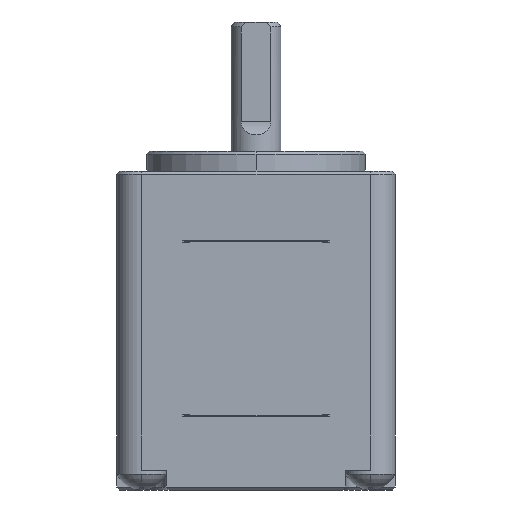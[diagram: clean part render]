
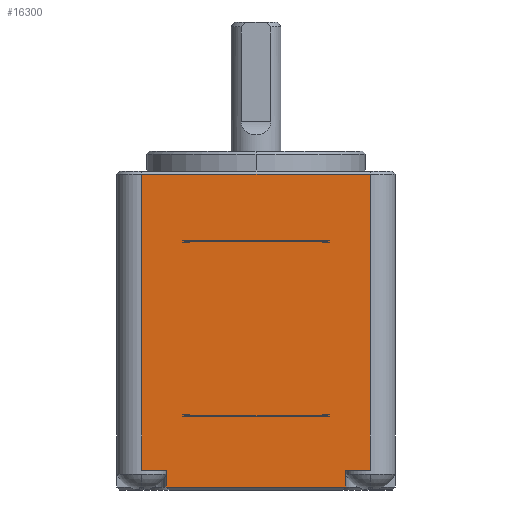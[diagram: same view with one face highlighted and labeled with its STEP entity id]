
A CAD part, left-side view. The second image highlights one B-rep face of the part: STEP entity #16300.
In plain terms, the highlighted planar face has unit normal (-1, 0, 0).
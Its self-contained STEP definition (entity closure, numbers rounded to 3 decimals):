
#2086=DIRECTION('',(0.,-1.,0.));
#2087=VECTOR('',#2086,13.304);
#2088=CARTESIAN_POINT('',(-14.,6.652,-16.575));
#2089=LINE('',#2088,#2087);
#2899=DIRECTION('',(0.,0.,-1.));
#2900=VECTOR('',#2899,29.75);
#2901=CARTESIAN_POINT('',(-14.,11.5,7.7));
#2902=LINE('',#2901,#2900);
#2922=DIRECTION('',(0.,1.,0.));
#2923=VECTOR('',#2922,2.5);
#2924=CARTESIAN_POINT('',(-14.,-11.5,-22.05));
#2925=LINE('',#2924,#2923);
#2926=DIRECTION('',(0.,0.,1.));
#2927=VECTOR('',#2926,1.7);
#2928=CARTESIAN_POINT('',(-14.,-9.,-23.75));
#2929=LINE('',#2928,#2927);
#2930=DIRECTION('',(0.,1.,0.));
#2931=VECTOR('',#2930,18.);
#2932=CARTESIAN_POINT('',(-14.,-9.,-23.75));
#2933=LINE('',#2932,#2931);
#2934=DIRECTION('',(0.,0.,1.));
#2935=VECTOR('',#2934,1.7);
#2936=CARTESIAN_POINT('',(-14.,9.,-23.75));
#2937=LINE('',#2936,#2935);
#2938=DIRECTION('',(0.,-1.,0.));
#2939=VECTOR('',#2938,2.5);
#2940=CARTESIAN_POINT('',(-14.,11.5,-22.05));
#2941=LINE('',#2940,#2939);
#2942=DIRECTION('',(0.,1.,0.));
#2943=VECTOR('',#2942,23.);
#2944=CARTESIAN_POINT('',(-14.,-11.5,
7.7));
#2945=LINE('',#2944,#2943);
#2946=DIRECTION('',(0.,0.,-1.));
#2947=VECTOR('',#2946,0.2);
#2948=CARTESIAN_POINT('',(-14.,7.215,1.));
#2949=LINE('',#2948,#2947);
#2950=DIRECTION('',(0.,-1.,0.));
#2951=VECTOR('',#2950,0.563);
#2952=CARTESIAN_POINT('',(-14.,7.215,0.8));
#2953=LINE('',#2952,#2951);
#2954=DIRECTION('',(0.,0.,1.));
#2955=VECTOR('',#2954,0.125);
#2956=CARTESIAN_POINT('',(-14.,6.652,0.8));
#2957=LINE('',#2956,#2955);
#2958=DIRECTION('',(0.,0.,1.));
#2959=VECTOR('',#2958,0.125);
#2960=CARTESIAN_POINT('',(-14.,-6.652,0.8));
#2961=LINE('',#2960,#2959);
#2962=DIRECTION('',(0.,-1.,0.));
#2963=VECTOR('',#2962,0.563);
#2964=CARTESIAN_POINT('',(-14.,-6.652,0.8));
#2965=LINE('',#2964,#2963);
#2966=DIRECTION('',(0.,0.,-1.));
#2967=VECTOR('',#2966,0.2);
#2968=CARTESIAN_POINT('',(-14.,-7.215,1.));
#2969=LINE('',#2968,#2967);
#2970=DIRECTION('',(0.,-1.,0.));
#2971=VECTOR('',#2970,14.431);
#2972=CARTESIAN_POINT('',(-14.,7.215,1.));
#2973=LINE('',#2972,#2971);
#2974=DIRECTION('',(0.,-1.,0.));
#2975=VECTOR('',#2974,0.563);
#2976=CARTESIAN_POINT('',(-14.,7.215,-16.45));
#2977=LINE('',#2976,#2975);
#2978=DIRECTION('',(0.,0.,1.));
#2979=VECTOR('',#2978,0.2);
#2980=CARTESIAN_POINT('',(-14.,7.215,-16.65));
#2981=LINE('',#2980,#2979);
#2982=DIRECTION('',(0.,-1.,0.));
#2983=VECTOR('',#2982,14.431);
#2984=CARTESIAN_POINT('',(-14.,7.215,-16.65));
#2985=LINE('',#2984,#2983);
#2986=DIRECTION('',(0.,0.,1.));
#2987=VECTOR('',#2986,0.2);
#2988=CARTESIAN_POINT('',(-14.,-7.215,-16.65));
#2989=LINE('',#2988,#2987);
#2990=DIRECTION('',(0.,-1.,0.));
#2991=VECTOR('',#2990,0.563);
#2992=CARTESIAN_POINT('',(-14.,-6.652,-16.45));
#2993=LINE('',#2992,#2991);
#2994=DIRECTION('',(0.,0.,-1.));
#2995=VECTOR('',#2994,0.125);
#2996=CARTESIAN_POINT('',(-14.,-6.652,-16.45));
#2997=LINE('',#2996,#2995);
#2998=DIRECTION('',(0.,0.,-1.));
#2999=VECTOR('',#2998,0.125);
#3000=CARTESIAN_POINT('',(-14.,6.652,-16.45));
#3001=LINE('',#3000,#2999);
#3025=DIRECTION('',(0.,0.,1.));
#3026=VECTOR('',#3025,29.75);
#3027=CARTESIAN_POINT('',(-14.,-11.5,-22.05));
#3028=LINE('',#3027,#3026);
#4648=DIRECTION('',(0.,-1.,0.));
#4649=VECTOR('',#4648,13.304);
#4650=CARTESIAN_POINT('',(-14.,6.652,0.925));
#4651=LINE('',#4650,#4649);
#9844=CARTESIAN_POINT('',(-14.,-11.5,
7.7));
#9845=CARTESIAN_POINT('',(-14.,11.5,7.7));
#9846=VERTEX_POINT('',#9844);
#9847=VERTEX_POINT('',#9845);
#9864=CARTESIAN_POINT('',(-14.,7.215,1.));
#9865=CARTESIAN_POINT('',(-14.,-7.215,1.));
#9866=VERTEX_POINT('',#9864);
#9867=VERTEX_POINT('',#9865);
#10037=CARTESIAN_POINT('',(-14.,6.652,0.925));
#10039=VERTEX_POINT('',#10037);
#10040=CARTESIAN_POINT('',(-14.,-6.652,0.925));
#10042=VERTEX_POINT('',#10040);
#10048=CARTESIAN_POINT('',(-14.,6.652,0.8));
#10049=VERTEX_POINT('',#10048);
#10050=CARTESIAN_POINT('',(-14.,-6.652,0.8));
#10051=VERTEX_POINT('',#10050);
#10118=CARTESIAN_POINT('',(-14.,-7.215,0.8));
#10119=VERTEX_POINT('',#10118);
#10120=CARTESIAN_POINT('',(-14.,7.215,0.8));
#10121=VERTEX_POINT('',#10120);
#10185=CARTESIAN_POINT('',(-14.,-6.652,-16.575));
#10187=VERTEX_POINT('',#10185);
#10188=CARTESIAN_POINT('',(-14.,6.652,-16.575));
#10190=VERTEX_POINT('',#10188);
#10196=CARTESIAN_POINT('',(-14.,-6.652,-16.45));
#10197=VERTEX_POINT('',#10196);
#10198=CARTESIAN_POINT('',(-14.,6.652,-16.45));
#10199=VERTEX_POINT('',#10198);
#11096=CARTESIAN_POINT('',(-14.,9.,-23.75));
#11098=VERTEX_POINT('',#11096);
#11104=CARTESIAN_POINT('',(-14.,-9.,-23.75));
#11105=VERTEX_POINT('',#11104);
#11138=CARTESIAN_POINT('',(-14.,9.,-22.05));
#11139=VERTEX_POINT('',#11138);
#11140=CARTESIAN_POINT('',(-14.,-9.,-22.05));
#11141=VERTEX_POINT('',#11140);
#11200=CARTESIAN_POINT('',(-14.,7.215,-16.65));
#11201=CARTESIAN_POINT('',(-14.,-7.215,-16.65));
#11202=VERTEX_POINT('',#11200);
#11203=VERTEX_POINT('',#11201);
#11368=CARTESIAN_POINT('',(-14.,7.215,-16.45));
#11369=VERTEX_POINT('',#11368);
#11370=CARTESIAN_POINT('',(-14.,-7.215,-16.45));
#11371=VERTEX_POINT('',#11370);
#11664=CARTESIAN_POINT('',(-14.,11.5,-22.05));
#11666=VERTEX_POINT('',#11664);
#11767=CARTESIAN_POINT('',(-14.,-11.5,-22.05));
#11769=VERTEX_POINT('',#11767);
#16244=CARTESIAN_POINT('',(-14.,14.,0.));
#16245=DIRECTION('',(-1.,0.,0.));
#16246=DIRECTION('',(0.,-1.,0.));
#16247=AXIS2_PLACEMENT_3D('',#16244,#16245,#16246);
#16248=PLANE('',#16247);
#16250=ORIENTED_EDGE('',*,*,#16249,.T.);
#16252=ORIENTED_EDGE('',*,*,#16251,.F.);
#16254=ORIENTED_EDGE('',*,*,#16253,.T.);
#16256=ORIENTED_EDGE('',*,*,#16255,.T.);
#16258=ORIENTED_EDGE('',*,*,#16257,.F.);
#16259=ORIENTED_EDGE('',*,*,#16225,.F.);
#16261=ORIENTED_EDGE('',*,*,#16260,.F.);
#16263=ORIENTED_EDGE('',*,*,#16262,.F.);
#16264=EDGE_LOOP('',(#16250,#16252,#16254,#16256,#16258,#16259,#16261,#16263));
#16265=FACE_OUTER_BOUND('',#16264,.F.);
#16267=ORIENTED_EDGE('',*,*,#16266,.T.);
#16269=ORIENTED_EDGE('',*,*,#16268,.T.);
#16271=ORIENTED_EDGE('',*,*,#16270,.T.);
#16273=ORIENTED_EDGE('',*,*,#16272,.T.);
#16275=ORIENTED_EDGE('',*,*,#16274,.F.);
#16277=ORIENTED_EDGE('',*,*,#16276,.T.);
#16279=ORIENTED_EDGE('',*,*,#16278,.F.);
#16281=ORIENTED_EDGE('',*,*,#16280,.F.);
#16282=EDGE_LOOP('',(#16267,#16269,#16271,#16273,#16275,#16277,#16279,#16281));
#16283=FACE_BOUND('',#16282,.F.);
#16285=ORIENTED_EDGE('',*,*,#16284,.F.);
#16287=ORIENTED_EDGE('',*,*,#16286,.F.);
#16288=ORIENTED_EDGE('',*,*,#15376,.T.);
#16290=ORIENTED_EDGE('',*,*,#16289,.T.);
#16292=ORIENTED_EDGE('',*,*,#16291,.F.);
#16294=ORIENTED_EDGE('',*,*,#16293,.T.);
#16295=ORIENTED_EDGE('',*,*,#15500,.F.);
#16297=ORIENTED_EDGE('',*,*,#16296,.F.);
#16298=EDGE_LOOP('',(#16285,#16287,#16288,#16290,#16292,#16294,#16295,#16297));
#16299=FACE_BOUND('',#16298,.F.);
#16300=ADVANCED_FACE('',(#16265,#16283,#16299),#16248,.T.);
#15376=EDGE_CURVE('',#11202,#11203,#2985,.T.);
#15500=EDGE_CURVE('',#10190,#10187,#2089,.T.);
#16225=EDGE_CURVE('',#9847,#11666,#2902,.T.);
#16249=EDGE_CURVE('',#11769,#11141,#2925,.T.);
#16251=EDGE_CURVE('',#11105,#11141,#2929,.T.);
#16253=EDGE_CURVE('',#11105,#11098,#2933,.T.);
#16255=EDGE_CURVE('',#11098,#11139,#2937,.T.);
#16257=EDGE_CURVE('',#11666,#11139,#2941,.T.);
#16260=EDGE_CURVE('',#9846,#9847,#2945,.T.);
#16262=EDGE_CURVE('',#11769,#9846,#3028,.T.);
#16266=EDGE_CURVE('',#9866,#10121,#2949,.T.);
#16268=EDGE_CURVE('',#10121,#10049,#2953,.T.);
#16270=EDGE_CURVE('',#10049,#10039,#2957,.T.);
#16272=EDGE_CURVE('',#10039,#10042,#4651,.T.);
#16274=EDGE_CURVE('',#10051,#10042,#2961,.T.);
#16276=EDGE_CURVE('',#10051,#10119,#2965,.T.);
#16278=EDGE_CURVE('',#9867,#10119,#2969,.T.);
#16280=EDGE_CURVE('',#9866,#9867,#2973,.T.);
#16284=EDGE_CURVE('',#11369,#10199,#2977,.T.);
#16286=EDGE_CURVE('',#11202,#11369,#2981,.T.);
#16289=EDGE_CURVE('',#11203,#11371,#2989,.T.);
#16291=EDGE_CURVE('',#10197,#11371,#2993,.T.);
#16293=EDGE_CURVE('',#10197,#10187,#2997,.T.);
#16296=EDGE_CURVE('',#10199,#10190,#3001,.T.);
